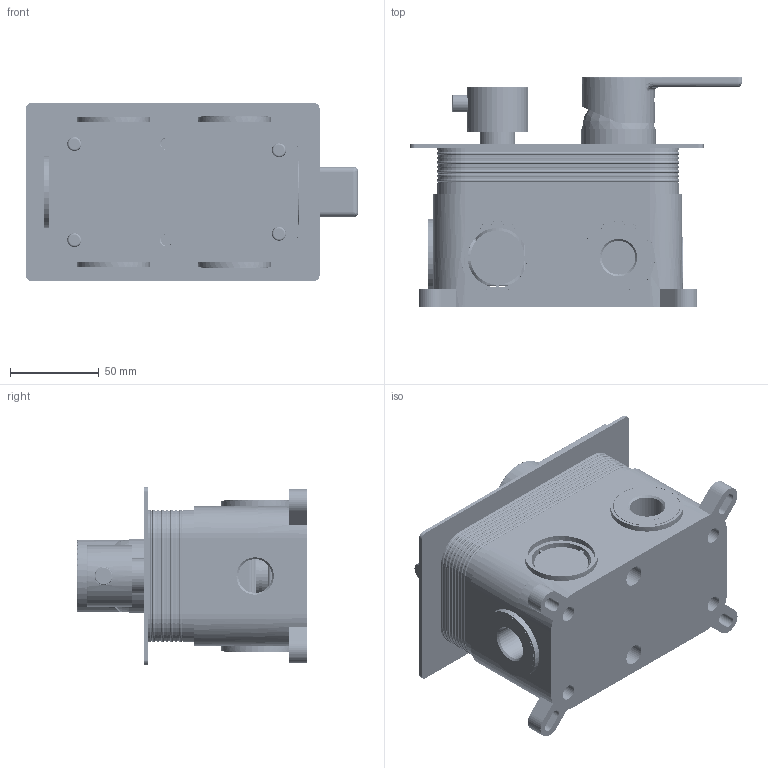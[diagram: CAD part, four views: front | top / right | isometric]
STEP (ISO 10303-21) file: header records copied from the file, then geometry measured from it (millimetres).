
FILE_DESCRIPTION (( 'STEP AP203' ), '1' );
FILE_NAME ('JAG45.STEP', '2024-01-24T15:53:56', ( '' ), ( '' ), 'SwSTEP 2.0', 'SolidWorks 2023', '' );
FILE_SCHEMA (( 'CONFIG_CONTROL_DESIGN' ));
Length unit declared in the file: millimetre
Products named in the file (17): 20装饰套.stp; 35半圆罩.stp; 橡胶圈.stp; 35压帽.stp; PIA RET1; 铜两档阀芯.stp; 35主体阀芯.stp; JAG45; 普通2连预埋盒上.stp; 1002-1主体-减轻.stp; 调档手轮.stp; 35装饰罩-圆.stp; 锁紧螺丝.stp; 手轮棒.stp; PG-1002-1.stp; 普通2连预埋盒下.stp; C23.2074.00.1
Assembly tree (22 placements, depth 3):
  JAG45
    PG-1002-1.stp
      普通2连预埋盒下.stp
      普通2连预埋盒上.stp
      橡胶圈.stp  x4
      锁紧螺丝.stp  x4
      1002-1主体-减轻.stp
      铜两档阀芯.stp
      35主体阀芯.stp
      35装饰罩-圆.stp
      35压帽.stp
      35半圆罩.stp
      20装饰套.stp
      调档手轮.stp
      手轮棒.stp
    C23.2074.00.1
    PIA RET1
Bounding box: 186.64 x 129.6 x 100 mm (x, y, z)
Volume: 351758.8 mm3; surface area: 282211.5 mm2
Topology: 21 solids, 21 shells, 2543 faces, 6696 edges, 4273 vertices
Faces by surface type: cylinder 1257, plane 678, bspline 255, torus 206, cone 143, sphere 4
Entity records: 131603 total; most frequent: CARTESIAN_POINT 79140, ORIENTED_EDGE 11068, DIRECTION 9954, EDGE_CURVE 5534, AXIS2_PLACEMENT_3D 3811, VERTEX_POINT 3523, VECTOR 2332, LINE 2332
